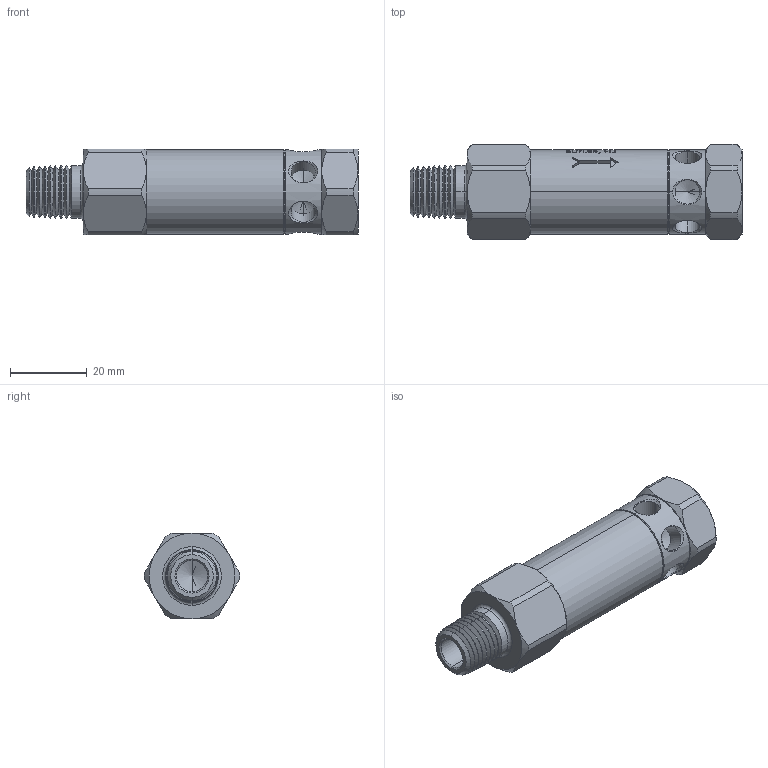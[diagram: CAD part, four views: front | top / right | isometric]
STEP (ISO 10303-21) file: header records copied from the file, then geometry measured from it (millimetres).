
FILE_DESCRIPTION (( 'STEP AP203' ), '1' );
FILE_NAME ('IRVD-4.STEP', '2020-08-13T12:49:51', ( '' ), ( '' ), 'SwSTEP 2.0', 'SolidWorks 2020', '' );
FILE_SCHEMA (( 'CONFIG_CONTROL_DESIGN' ));
Length unit declared in the file: inch
Products named in the file (2): IRVD-4; Part13^IRVD-4
Assembly tree (1 placements, depth 2):
  IRVD-4
    Part13^IRVD-4
Bounding box: 86.28 x 24.76 x 22.23 mm (x, y, z)
Volume: 28399.8 mm3; surface area: 7766.5 mm2
Topology: 1 solids, 1 shells, 395 faces, 978 edges, 603 vertices
Faces by surface type: plane 148, cone 116, bspline 70, cylinder 59, torus 2
Entity records: 16807 total; most frequent: CARTESIAN_POINT 7909, ORIENTED_EDGE 1928, DIRECTION 1608, EDGE_CURVE 964, AXIS2_PLACEMENT_3D 613, VERTEX_POINT 603, EDGE_LOOP 427, FACE_OUTER_BOUND 395
